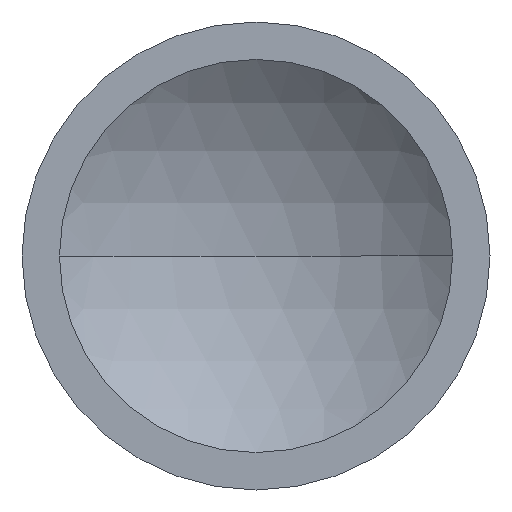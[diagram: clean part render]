
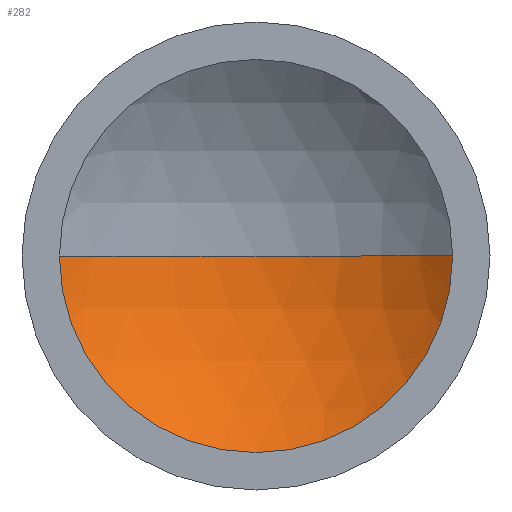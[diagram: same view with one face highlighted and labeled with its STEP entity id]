
A CAD part, front view. The second image highlights one B-rep face of the part: STEP entity #282.
In plain terms, the highlighted spherical face has radius 16 mm.
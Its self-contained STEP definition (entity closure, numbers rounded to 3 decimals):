
#14 = DIRECTION ( 'NONE',  ( 0., 0., -1. ) ) ;
#26 = EDGE_CURVE ( 'NONE', #242, #163, #140, .T. ) ;
#30 = CARTESIAN_POINT ( 'NONE',  ( 0., 10., 0. ) ) ;
#45 = CARTESIAN_POINT ( 'NONE',  ( 0., -6., 0. ) ) ;
#46 = DIRECTION ( 'NONE',  ( 0., 0., 1. ) ) ;
#54 = CIRCLE ( 'NONE', #294, 16. ) ;
#64 = DIRECTION ( 'NONE',  ( 1., 0., 0. ) ) ;
#74 = ORIENTED_EDGE ( 'NONE', *, *, #26, .F. ) ;
#83 = CARTESIAN_POINT ( 'NONE',  ( 0., -6., 0. ) ) ;
#84 = AXIS2_PLACEMENT_3D ( 'NONE', #83, #273, #156 ) ;
#100 = CARTESIAN_POINT ( 'NONE',  ( 0., -6., 0. ) ) ;
#126 = DIRECTION ( 'NONE',  ( -1., 0., 0. ) ) ;
#140 = CIRCLE ( 'NONE', #281, 10.5 ) ;
#144 = CARTESIAN_POINT ( 'NONE',  ( 0., 6.073, 0. ) ) ;
#145 = CIRCLE ( 'NONE', #84, 16. ) ;
#146 = DIRECTION ( 'NONE',  ( -1., 0., 0. ) ) ;
#156 = DIRECTION ( 'NONE',  ( 1., 0., 0. ) ) ;
#161 = ORIENTED_EDGE ( 'NONE', *, *, #348, .T. ) ;
#163 = VERTEX_POINT ( 'NONE', #237 ) ;
#187 = EDGE_LOOP ( 'NONE', ( #74, #161, #232 ) ) ;
#191 = EDGE_CURVE ( 'NONE', #163, #316, #54, .T. ) ;
#232 = ORIENTED_EDGE ( 'NONE', *, *, #191, .F. ) ;
#237 = CARTESIAN_POINT ( 'NONE',  ( -10.5, 6.073, 0. ) ) ;
#242 = VERTEX_POINT ( 'NONE', #319 ) ;
#273 = DIRECTION ( 'NONE',  ( 0., 0., 1. ) ) ;
#281 = AXIS2_PLACEMENT_3D ( 'NONE', #144, #315, #64 ) ;
#282 = ADVANCED_FACE ( 'NONE', ( #291 ), #289, .F. ) ;
#289 = SPHERICAL_SURFACE ( 'NONE', #357, 16. ) ;
#291 = FACE_OUTER_BOUND ( 'NONE', #187, .T. ) ;
#294 = AXIS2_PLACEMENT_3D ( 'NONE', #100, #14, #126 ) ;
#315 = DIRECTION ( 'NONE',  ( 0., 1., 0. ) ) ;
#316 = VERTEX_POINT ( 'NONE', #30 ) ;
#319 = CARTESIAN_POINT ( 'NONE',  ( 10.5, 6.073, 0. ) ) ;
#348 = EDGE_CURVE ( 'NONE', #242, #316, #145, .T. ) ;
#357 = AXIS2_PLACEMENT_3D ( 'NONE', #45, #46, #146 ) ;
